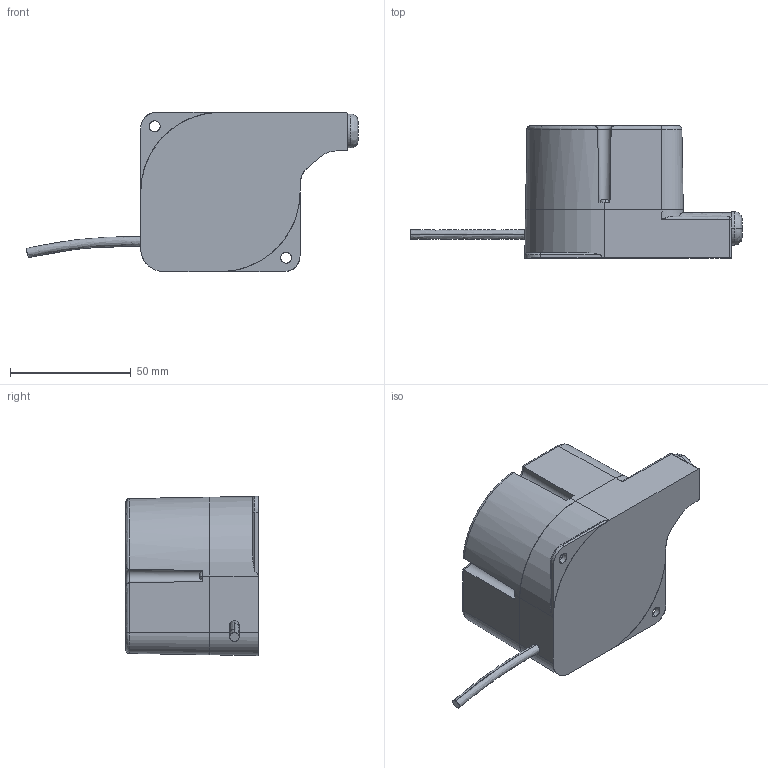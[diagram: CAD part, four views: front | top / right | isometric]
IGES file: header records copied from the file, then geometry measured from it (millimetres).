
Start section: SolidWorks IGES file using analytic representation for surfaces
Bounding box: 137.54 x 54.8 x 66 mm (x, y, z)
Surface area: 32258.2 mm2 (no closed solid volume)
Topology: 0 solids, 0 shells, 222 faces, 3252 edges, 3250 vertices
Faces by surface type: bspline 142, revolution 80
